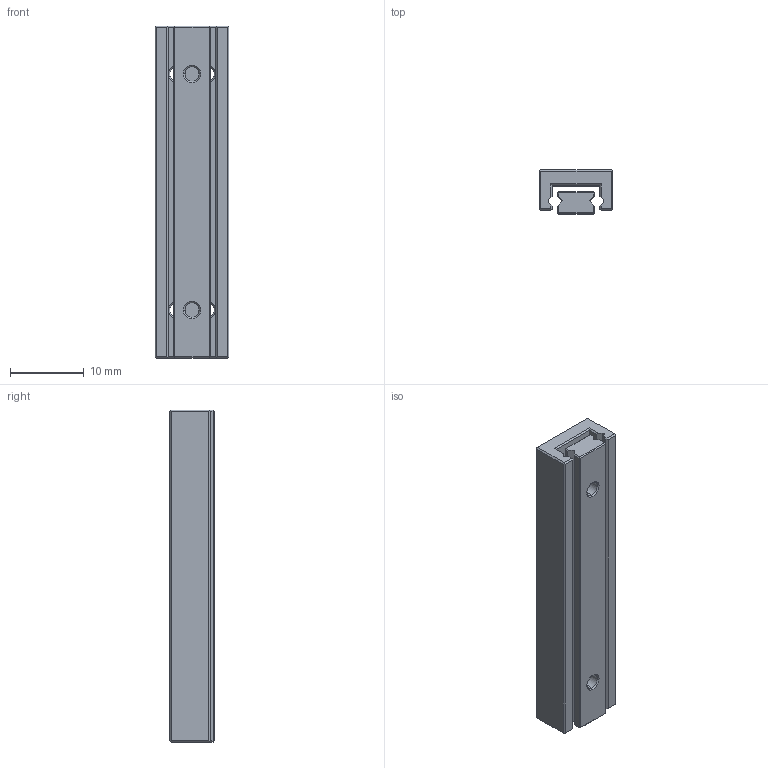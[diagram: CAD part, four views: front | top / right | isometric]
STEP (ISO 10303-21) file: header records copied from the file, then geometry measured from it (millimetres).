
FILE_DESCRIPTION (( 'STEP AP214' ), '1' );
FILE_NAME ('PMM 1-45.STEP', '2012-03-02T10:43:51', ( '' ), ( '' ), 'SwSTEP 2.0', 'SolidWorks 2011', '' );
FILE_SCHEMA (( 'AUTOMOTIVE_DESIGN' ));
Length unit declared in the file: millimetre
Products named in the file (1): PMM 1-45
Bounding box: 10 x 6 x 45 mm (x, y, z)
Volume: 2038.8 mm3; surface area: 2600.3 mm2
Topology: 2 solids, 2 shells, 256 faces, 696 edges, 460 vertices
Faces by surface type: plane 174, bspline 43, cone 24, cylinder 15
Entity records: 11893 total; most frequent: CARTESIAN_POINT 4024, ORIENTED_EDGE 1392, DIRECTION 1108, EDGE_CURVE 696, LINE 540, VECTOR 540, VERTEX_POINT 460, AXIS2_PLACEMENT_3D 284
